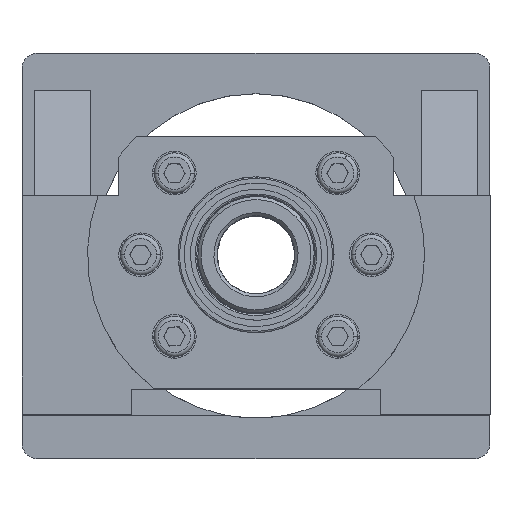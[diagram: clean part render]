
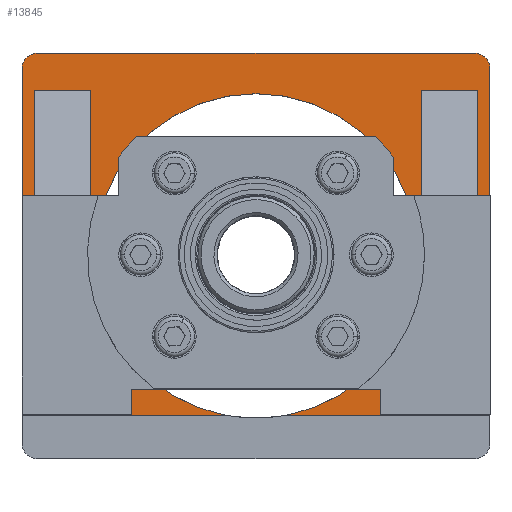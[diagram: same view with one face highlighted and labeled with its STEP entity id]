
A CAD part, top view. The second image highlights one B-rep face of the part: STEP entity #13845.
In plain terms, the highlighted planar face has unit normal (0, 0, 1).
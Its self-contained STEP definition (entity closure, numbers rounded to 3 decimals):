
#72 = CIRCLE ( 'NONE', #4044, 5. ) ;
#716 = EDGE_CURVE ( 'NONE', #14963, #17733, #5673, .T. ) ;
#763 = DIRECTION ( 'NONE',  ( 0., 0., 1. ) ) ;
#1430 = CARTESIAN_POINT ( 'NONE',  ( -71., 17., 22. ) ) ;
#1613 = VERTEX_POINT ( 'NONE', #9908 ) ;
#1819 = CARTESIAN_POINT ( 'NONE',  ( -76.047, -51.01, 22. ) ) ;
#1969 = AXIS2_PLACEMENT_3D ( 'NONE', #9196, #20250, #10802 ) ;
#2164 = EDGE_CURVE ( 'NONE', #12159, #9275, #20475, .T. ) ;
#2417 = LINE ( 'NONE', #8281, #14451 ) ;
#2511 = DIRECTION ( 'NONE',  ( 0., 0., 1. ) ) ;
#2864 = ORIENTED_EDGE ( 'NONE', *, *, #9833, .F. ) ;
#2884 = LINE ( 'NONE', #8758, #14933 ) ;
#3307 = CARTESIAN_POINT ( 'NONE',  ( 71., -51., 22. ) ) ;
#3412 = DIRECTION ( 'NONE',  ( 1., 0., 0. ) ) ;
#3419 = CARTESIAN_POINT ( 'NONE',  ( -70., 65., 22. ) ) ;
#3590 = FACE_OUTER_BOUND ( 'NONE', #4528, .T. ) ;
#3743 = CARTESIAN_POINT ( 'NONE',  ( -75., 65., 22. ) ) ;
#3805 = VERTEX_POINT ( 'NONE', #6339 ) ;
#3815 = CARTESIAN_POINT ( 'NONE',  ( 75., 65., 22. ) ) ;
#3894 = CARTESIAN_POINT ( 'NONE',  ( -75., -65., 22. ) ) ;
#4029 = DIRECTION ( 'NONE',  ( 0., 0., 1. ) ) ;
#4044 = AXIS2_PLACEMENT_3D ( 'NONE', #10192, #763, #11783 ) ;
#4136 = CARTESIAN_POINT ( 'NONE',  ( -71., -51., 22. ) ) ;
#4422 = EDGE_CURVE ( 'NONE', #6392, #8540, #72, .T. ) ;
#4514 = AXIS2_PLACEMENT_3D ( 'NONE', #3894, #7042, #18056 ) ;
#4528 = EDGE_LOOP ( 'NONE', ( #13805, #13731, #12209, #5558, #5067, #10344, #4591, #17294, #7018, #20409 ) ) ;
#4591 = ORIENTED_EDGE ( 'NONE', *, *, #4422, .T. ) ;
#5055 = LINE ( 'NONE', #17938, #12439 ) ;
#5067 = ORIENTED_EDGE ( 'NONE', *, *, #2164, .T. ) ;
#5333 = DIRECTION ( 'NONE',  ( 0., -1., 0. ) ) ;
#5395 = VECTOR ( 'NONE', #5333, 1000. ) ;
#5558 = ORIENTED_EDGE ( 'NONE', *, *, #7277, .F. ) ;
#5673 = LINE ( 'NONE', #10932, #17246 ) ;
#5846 = LINE ( 'NONE', #1430, #18422 ) ;
#5869 = EDGE_CURVE ( 'NONE', #7847, #1613, #2417, .T. ) ;
#5951 = ORIENTED_EDGE ( 'NONE', *, *, #18495, .T. ) ;
#5961 = EDGE_LOOP ( 'NONE', ( #10738, #5951, #9961, #12750 ) ) ;
#6156 = VECTOR ( 'NONE', #14374, 1000. ) ;
#6339 = CARTESIAN_POINT ( 'NONE',  ( -53., -51., 22. ) ) ;
#6392 = VERTEX_POINT ( 'NONE', #15706 ) ;
#6578 = VERTEX_POINT ( 'NONE', #13237 ) ;
#6673 = EDGE_CURVE ( 'NONE', #7624, #6578, #7056, .T. ) ;
#6697 = EDGE_CURVE ( 'NONE', #11891, #19598, #2884, .T. ) ;
#6966 = DIRECTION ( 'NONE',  ( 0., 1., 0. ) ) ;
#7018 = ORIENTED_EDGE ( 'NONE', *, *, #6673, .T. ) ;
#7042 = DIRECTION ( 'NONE',  ( 0., 0., 1. ) ) ;
#7055 = CARTESIAN_POINT ( 'NONE',  ( -75., -51.01, 22. ) ) ;
#7056 = CIRCLE ( 'NONE', #17528, 5. ) ;
#7176 = CARTESIAN_POINT ( 'NONE',  ( 0., 0., 22. ) ) ;
#7277 = EDGE_CURVE ( 'NONE', #12159, #16499, #18377, .T. ) ;
#7624 = VERTEX_POINT ( 'NONE', #3419 ) ;
#7767 = EDGE_CURVE ( 'NONE', #11278, #8455, #5055, .T. ) ;
#7847 = VERTEX_POINT ( 'NONE', #7055 ) ;
#8026 = CARTESIAN_POINT ( 'NONE',  ( 52., 0., 22. ) ) ;
#8257 = FACE_BOUND ( 'NONE', #5961, .T. ) ;
#8281 = CARTESIAN_POINT ( 'NONE',  ( -76.047, -51.01, 22. ) ) ;
#8455 = VERTEX_POINT ( 'NONE', #3307 ) ;
#8499 = DIRECTION ( 'NONE',  ( 1., 0., 0. ) ) ;
#8540 = VERTEX_POINT ( 'NONE', #19217 ) ;
#8566 = VECTOR ( 'NONE', #11855, 1000. ) ;
#8593 = CIRCLE ( 'NONE', #14998, 52. ) ;
#8758 = CARTESIAN_POINT ( 'NONE',  ( -75., 53., 22. ) ) ;
#8762 = DIRECTION ( 'NONE',  ( 1., 0., 0. ) ) ;
#9010 = VERTEX_POINT ( 'NONE', #4136 ) ;
#9078 = LINE ( 'NONE', #3815, #16969 ) ;
#9196 = CARTESIAN_POINT ( 'NONE',  ( 0., 0., 22. ) ) ;
#9275 = VERTEX_POINT ( 'NONE', #11270 ) ;
#9341 = DIRECTION ( 'NONE',  ( -1., 0., 0. ) ) ;
#9476 = VECTOR ( 'NONE', #14016, 1000. ) ;
#9833 = EDGE_CURVE ( 'NONE', #17733, #9010, #5846, .T. ) ;
#9908 = CARTESIAN_POINT ( 'NONE',  ( -10.099, -51.01, 22. ) ) ;
#9961 = ORIENTED_EDGE ( 'NONE', *, *, #6697, .F. ) ;
#10192 = CARTESIAN_POINT ( 'NONE',  ( 70., 60., 22. ) ) ;
#10344 = ORIENTED_EDGE ( 'NONE', *, *, #19538, .T. ) ;
#10352 = DIRECTION ( 'NONE',  ( -1., 0., 0. ) ) ;
#10738 = ORIENTED_EDGE ( 'NONE', *, *, #7767, .F. ) ;
#10788 = ORIENTED_EDGE ( 'NONE', *, *, #16284, .F. ) ;
#10802 = DIRECTION ( 'NONE',  ( 1., 0., 0. ) ) ;
#10867 = DIRECTION ( 'NONE',  ( 0., -1., 0. ) ) ;
#10932 = CARTESIAN_POINT ( 'NONE',  ( -75., 53., 22. ) ) ;
#11270 = CARTESIAN_POINT ( 'NONE',  ( 75., -51.01, 22. ) ) ;
#11278 = VERTEX_POINT ( 'NONE', #14941 ) ;
#11334 = VERTEX_POINT ( 'NONE', #13420 ) ;
#11573 = EDGE_CURVE ( 'NONE', #11891, #8455, #12751, .T. ) ;
#11730 = PLANE ( 'NONE',  #4514 ) ;
#11764 = DIRECTION ( 'NONE',  ( 0., 1., 0. ) ) ;
#11783 = DIRECTION ( 'NONE',  ( 1., 0., 0. ) ) ;
#11855 = DIRECTION ( 'NONE',  ( 0., -1., 0. ) ) ;
#11891 = VERTEX_POINT ( 'NONE', #17069 ) ;
#11928 = CARTESIAN_POINT ( 'NONE',  ( -70., 60., 22. ) ) ;
#12071 = VECTOR ( 'NONE', #3412, 1000. ) ;
#12159 = VERTEX_POINT ( 'NONE', #12916 ) ;
#12191 = CARTESIAN_POINT ( 'NONE',  ( -71., 53., 22. ) ) ;
#12209 = ORIENTED_EDGE ( 'NONE', *, *, #15090, .F. ) ;
#12439 = VECTOR ( 'NONE', #8499, 1000. ) ;
#12750 = ORIENTED_EDGE ( 'NONE', *, *, #11573, .T. ) ;
#12751 = LINE ( 'NONE', #18118, #8566 ) ;
#12916 = CARTESIAN_POINT ( 'NONE',  ( 10.099, -51.01, 22. ) ) ;
#13237 = CARTESIAN_POINT ( 'NONE',  ( -75., 60., 22. ) ) ;
#13420 = CARTESIAN_POINT ( 'NONE',  ( -52., 0., 22. ) ) ;
#13438 = CARTESIAN_POINT ( 'NONE',  ( 0., 0., 22. ) ) ;
#13506 = DIRECTION ( 'NONE',  ( 1., 0., 0. ) ) ;
#13658 = LINE ( 'NONE', #20321, #9476 ) ;
#13731 = ORIENTED_EDGE ( 'NONE', *, *, #19614, .F. ) ;
#13772 = VECTOR ( 'NONE', #11764, 1000. ) ;
#13805 = ORIENTED_EDGE ( 'NONE', *, *, #5869, .T. ) ;
#13845 = ADVANCED_FACE ( 'NONE', ( #3590, #15649, #8257 ), #11730, .T. ) ;
#14016 = DIRECTION ( 'NONE',  ( 1., 0., 0. ) ) ;
#14374 = DIRECTION ( 'NONE',  ( 0., 1., 0. ) ) ;
#14451 = VECTOR ( 'NONE', #16333, 1000. ) ;
#14933 = VECTOR ( 'NONE', #10352, 1000. ) ;
#14941 = CARTESIAN_POINT ( 'NONE',  ( 53., -51., 22. ) ) ;
#14963 = VERTEX_POINT ( 'NONE', #16861 ) ;
#14998 = AXIS2_PLACEMENT_3D ( 'NONE', #13438, #4029, #15028 ) ;
#15028 = DIRECTION ( 'NONE',  ( 1., 0., 0. ) ) ;
#15090 = EDGE_CURVE ( 'NONE', #16499, #11334, #17143, .T. ) ;
#15134 = DIRECTION ( 'NONE',  ( -1., 0., 0. ) ) ;
#15632 = VECTOR ( 'NONE', #15134, 1000. ) ;
#15649 = FACE_BOUND ( 'NONE', #16277, .T. ) ;
#15706 = CARTESIAN_POINT ( 'NONE',  ( 75., 60., 22. ) ) ;
#16023 = EDGE_CURVE ( 'NONE', #8540, #7624, #16130, .T. ) ;
#16130 = LINE ( 'NONE', #18309, #15632 ) ;
#16277 = EDGE_LOOP ( 'NONE', ( #10788, #2864, #18797, #19142 ) ) ;
#16284 = EDGE_CURVE ( 'NONE', #9010, #3805, #13658, .T. ) ;
#16333 = DIRECTION ( 'NONE',  ( 1., 0., 0. ) ) ;
#16499 = VERTEX_POINT ( 'NONE', #8026 ) ;
#16544 = CARTESIAN_POINT ( 'NONE',  ( 53., 53., 22. ) ) ;
#16861 = CARTESIAN_POINT ( 'NONE',  ( -53., 53., 22. ) ) ;
#16969 = VECTOR ( 'NONE', #6966, 1000. ) ;
#17069 = CARTESIAN_POINT ( 'NONE',  ( 71., 53., 22. ) ) ;
#17143 = CIRCLE ( 'NONE', #17454, 52. ) ;
#17246 = VECTOR ( 'NONE', #9341, 1000. ) ;
#17294 = ORIENTED_EDGE ( 'NONE', *, *, #16023, .T. ) ;
#17454 = AXIS2_PLACEMENT_3D ( 'NONE', #7176, #18205, #8762 ) ;
#17488 = CARTESIAN_POINT ( 'NONE',  ( -53., 17., 22. ) ) ;
#17528 = AXIS2_PLACEMENT_3D ( 'NONE', #11928, #2511, #13506 ) ;
#17733 = VERTEX_POINT ( 'NONE', #12191 ) ;
#17938 = CARTESIAN_POINT ( 'NONE',  ( 53., -51., 22. ) ) ;
#17956 = LINE ( 'NONE', #3743, #5395 ) ;
#17959 = EDGE_CURVE ( 'NONE', #3805, #14963, #18731, .T. ) ;
#17972 = LINE ( 'NONE', #19627, #13772 ) ;
#18056 = DIRECTION ( 'NONE',  ( 1., 0., 0. ) ) ;
#18118 = CARTESIAN_POINT ( 'NONE',  ( 71., 17., 22. ) ) ;
#18205 = DIRECTION ( 'NONE',  ( 0., 0., 1. ) ) ;
#18309 = CARTESIAN_POINT ( 'NONE',  ( -75., 65., 22. ) ) ;
#18377 = CIRCLE ( 'NONE', #1969, 52. ) ;
#18422 = VECTOR ( 'NONE', #10867, 1000. ) ;
#18495 = EDGE_CURVE ( 'NONE', #11278, #19598, #17972, .T. ) ;
#18731 = LINE ( 'NONE', #17488, #6156 ) ;
#18797 = ORIENTED_EDGE ( 'NONE', *, *, #716, .F. ) ;
#19142 = ORIENTED_EDGE ( 'NONE', *, *, #17959, .F. ) ;
#19217 = CARTESIAN_POINT ( 'NONE',  ( 70., 65., 22. ) ) ;
#19423 = EDGE_CURVE ( 'NONE', #6578, #7847, #17956, .T. ) ;
#19538 = EDGE_CURVE ( 'NONE', #9275, #6392, #9078, .T. ) ;
#19598 = VERTEX_POINT ( 'NONE', #16544 ) ;
#19614 = EDGE_CURVE ( 'NONE', #11334, #1613, #8593, .T. ) ;
#19627 = CARTESIAN_POINT ( 'NONE',  ( 53., 17., 22. ) ) ;
#20250 = DIRECTION ( 'NONE',  ( 0., 0., 1. ) ) ;
#20321 = CARTESIAN_POINT ( 'NONE',  ( -71., -51., 22. ) ) ;
#20409 = ORIENTED_EDGE ( 'NONE', *, *, #19423, .T. ) ;
#20475 = LINE ( 'NONE', #1819, #12071 ) ;
